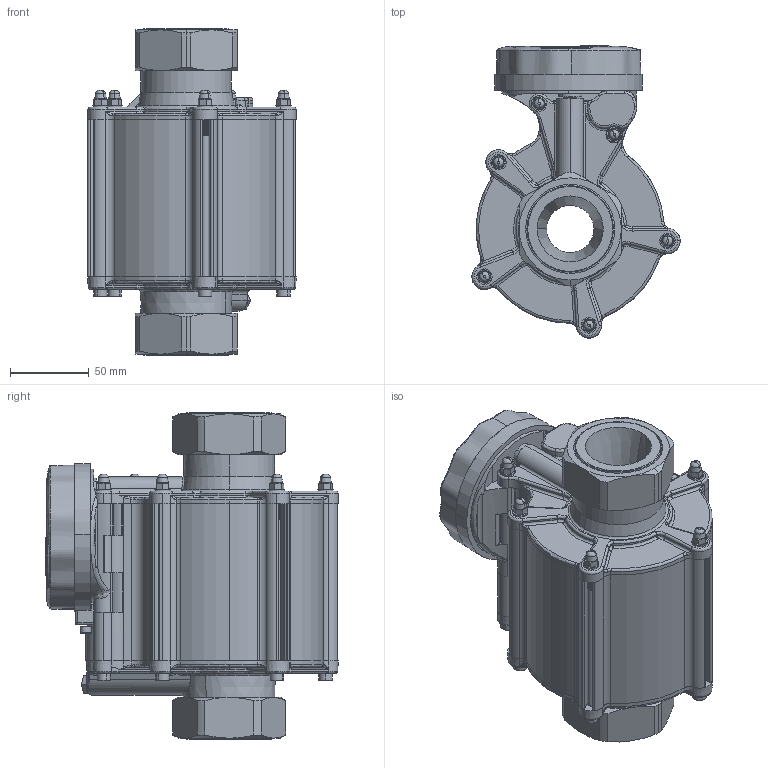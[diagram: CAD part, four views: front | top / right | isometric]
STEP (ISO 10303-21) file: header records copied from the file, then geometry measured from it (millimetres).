
FILE_DESCRIPTION (( 'STEP AP214' ), '1' );
FILE_NAME ('PAPXL050.STEP', '2020-01-31T15:53:44', ( 'Windows User' ), ( 'Watts Water' ), 'SwSTEP 2.0', 'SolidWorks 2017', '' );
FILE_SCHEMA (( 'AUTOMOTIVE_DESIGN' ));
Length unit declared in the file: millimetre
Products named in the file (1): PAPXL050
Bounding box: 132.5 x 185.89 x 208 mm (x, y, z)
Surface area: 193048.9 mm2 (no closed solid volume)
Topology: 0 solids, 72 shells, 1287 faces, 4009 edges, 2653 vertices
Faces by surface type: cylinder 321, bspline 310, plane 304, cone 250, torus 98, sphere 4
Entity records: 92349 total; most frequent: CARTESIAN_POINT 45551, ORIENTED_EDGE 6755, DIRECTION 6404, EDGE_CURVE 3962, VERTEX_POINT 2653, AXIS2_PLACEMENT_3D 2540, CIRCLE 1562, EDGE_LOOP 1385
